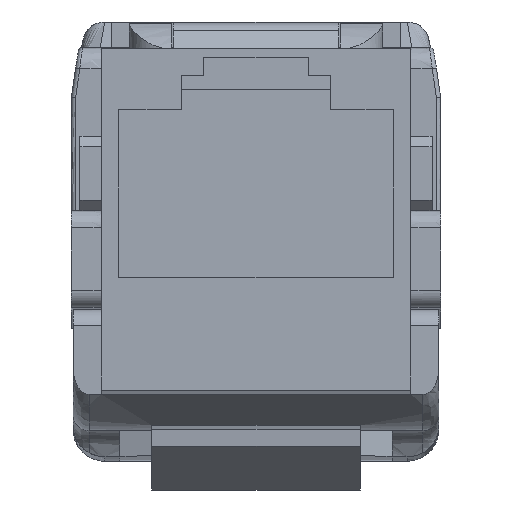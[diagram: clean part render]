
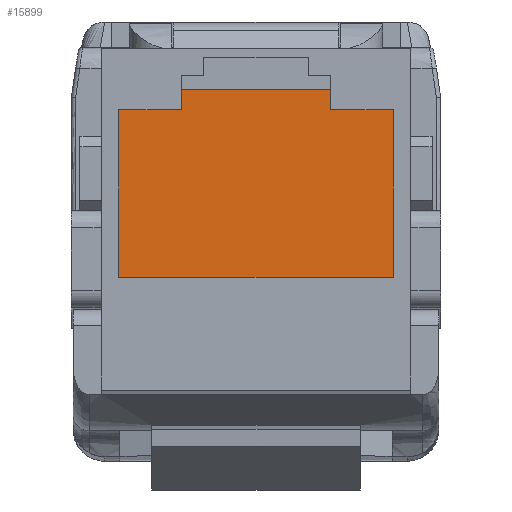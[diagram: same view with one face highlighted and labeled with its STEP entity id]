
A CAD part, left-side view. The second image highlights one B-rep face of the part: STEP entity #15899.
In plain terms, the highlighted free-form (B-spline) face has degree [1, 1] with [2, 2] control points.
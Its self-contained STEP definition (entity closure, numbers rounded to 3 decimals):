
#11173=CARTESIAN_POINT('',(10.,3.504,14.336));
#11174=VERTEX_POINT('',#11173);
#11186=CARTESIAN_POINT('',(10.,-3.504,14.336));
#11187=VERTEX_POINT('',#11186);
#11188=CARTESIAN_POINT('',(10.,-3.504,14.336));
#11189=CARTESIAN_POINT('',(10.,-2.103,14.336));
#11190=CARTESIAN_POINT('',(10.,-0.701,14.336));
#11191=CARTESIAN_POINT('',(10.,0.701,14.336));
#11192=CARTESIAN_POINT('',(10.,2.103,14.336));
#11193=CARTESIAN_POINT('',(10.,3.504,14.336));
#11194=B_SPLINE_CURVE_WITH_KNOTS('',5,(#11188,#11189,#11190,#11191,#11192,#11193),.UNSPECIFIED.,.F.,.U.,(6,6),(0.,7.009),.UNSPECIFIED.);
#11195=EDGE_CURVE('',#11187,#11174,#11194,.T.);
#11863=CARTESIAN_POINT('',(10.,-3.504,13.382));
#11864=VERTEX_POINT('',#11863);
#11874=CARTESIAN_POINT('',(10.,-3.504,14.336));
#11875=CARTESIAN_POINT('',(10.,-3.504,14.146));
#11876=CARTESIAN_POINT('',(10.,-3.504,13.955));
#11877=CARTESIAN_POINT('',(10.,-3.504,13.764));
#11878=CARTESIAN_POINT('',(10.,-3.504,13.573));
#11879=CARTESIAN_POINT('',(10.,-3.504,13.382));
#11880=B_SPLINE_CURVE_WITH_KNOTS('',5,(#11874,#11875,#11876,#11877,#11878,#11879),.UNSPECIFIED.,.F.,.U.,(6,6),(0.,0.955),.UNSPECIFIED.);
#11881=EDGE_CURVE('',#11187,#11864,#11880,.T.);
#15826=CARTESIAN_POINT('',(10.,-6.458,14.336));
#15827=CARTESIAN_POINT('',(10.,6.458,14.336));
#15828=CARTESIAN_POINT('',(10.,-6.458,5.491));
#15829=CARTESIAN_POINT('',(10.,6.458,5.491));
#15830=B_SPLINE_SURFACE_WITH_KNOTS('',1,1,((#15826,#15827),(#15828,#15829)),.PLANE_SURF.,.F.,.F.,.U.,(2,2),(2,2),(0.,8.845),(0.,12.915),.UNSPECIFIED.);
#15831=ORIENTED_EDGE('',*,*,#11881,.T.);
#15832=CARTESIAN_POINT('',(10.,-6.458,13.382));
#15833=VERTEX_POINT('',#15832);
#15834=CARTESIAN_POINT('',(10.,-3.504,13.382));
#15835=CARTESIAN_POINT('',(10.,-4.095,13.382));
#15836=CARTESIAN_POINT('',(10.,-4.686,13.382));
#15837=CARTESIAN_POINT('',(10.,-5.276,13.382));
#15838=CARTESIAN_POINT('',(10.,-5.867,13.382));
#15839=CARTESIAN_POINT('',(10.,-6.458,13.382));
#15840=B_SPLINE_CURVE_WITH_KNOTS('',5,(#15834,#15835,#15836,#15837,#15838,#15839),.UNSPECIFIED.,.F.,.U.,(6,6),(0.,2.953),.UNSPECIFIED.);
#15841=EDGE_CURVE('',#11864,#15833,#15840,.T.);
#15842=ORIENTED_EDGE('',*,*,#15841,.T.);
#15843=CARTESIAN_POINT('',(10.,-6.458,5.491));
#15844=VERTEX_POINT('',#15843);
#15845=CARTESIAN_POINT('',(10.,-6.458,13.382));
#15846=CARTESIAN_POINT('',(10.,-6.458,11.804));
#15847=CARTESIAN_POINT('',(10.,-6.458,10.226));
#15848=CARTESIAN_POINT('',(10.,-6.458,8.647));
#15849=CARTESIAN_POINT('',(10.,-6.458,7.069));
#15850=CARTESIAN_POINT('',(10.,-6.458,5.491));
#15851=B_SPLINE_CURVE_WITH_KNOTS('',5,(#15845,#15846,#15847,#15848,#15849,#15850),.UNSPECIFIED.,.F.,.U.,(6,6),(0.,7.89),.UNSPECIFIED.);
#15852=EDGE_CURVE('',#15833,#15844,#15851,.T.);
#15853=ORIENTED_EDGE('',*,*,#15852,.T.);
#15854=CARTESIAN_POINT('',(10.,6.458,5.491));
#15855=VERTEX_POINT('',#15854);
#15856=CARTESIAN_POINT('',(10.,-6.458,5.491));
#15857=CARTESIAN_POINT('',(10.,-3.875,5.491));
#15858=CARTESIAN_POINT('',(10.,-1.292,5.491));
#15859=CARTESIAN_POINT('',(10.,1.292,5.491));
#15860=CARTESIAN_POINT('',(10.,3.875,5.491));
#15861=CARTESIAN_POINT('',(10.,6.458,5.491));
#15862=B_SPLINE_CURVE_WITH_KNOTS('',5,(#15856,#15857,#15858,#15859,#15860,#15861),.UNSPECIFIED.,.F.,.U.,(6,6),(0.,12.915),.UNSPECIFIED.);
#15863=EDGE_CURVE('',#15844,#15855,#15862,.T.);
#15864=ORIENTED_EDGE('',*,*,#15863,.T.);
#15865=CARTESIAN_POINT('',(10.,6.458,13.382));
#15866=VERTEX_POINT('',#15865);
#15867=CARTESIAN_POINT('',(10.,6.458,5.491));
#15868=CARTESIAN_POINT('',(10.,6.458,7.069));
#15869=CARTESIAN_POINT('',(10.,6.458,8.647));
#15870=CARTESIAN_POINT('',(10.,6.458,10.226));
#15871=CARTESIAN_POINT('',(10.,6.458,11.804));
#15872=CARTESIAN_POINT('',(10.,6.458,13.382));
#15873=B_SPLINE_CURVE_WITH_KNOTS('',5,(#15867,#15868,#15869,#15870,#15871,#15872),.UNSPECIFIED.,.F.,.U.,(6,6),(0.,7.89),.UNSPECIFIED.);
#15874=EDGE_CURVE('',#15855,#15866,#15873,.T.);
#15875=ORIENTED_EDGE('',*,*,#15874,.T.);
#15876=CARTESIAN_POINT('',(10.,3.504,13.382));
#15877=VERTEX_POINT('',#15876);
#15878=CARTESIAN_POINT('',(10.,6.458,13.382));
#15879=CARTESIAN_POINT('',(10.,5.867,13.382));
#15880=CARTESIAN_POINT('',(10.,5.276,13.382));
#15881=CARTESIAN_POINT('',(10.,4.686,13.382));
#15882=CARTESIAN_POINT('',(10.,4.095,13.382));
#15883=CARTESIAN_POINT('',(10.,3.504,13.382));
#15884=B_SPLINE_CURVE_WITH_KNOTS('',5,(#15878,#15879,#15880,#15881,#15882,#15883),.UNSPECIFIED.,.F.,.U.,(6,6),(0.,2.953),.UNSPECIFIED.);
#15885=EDGE_CURVE('',#15866,#15877,#15884,.T.);
#15886=ORIENTED_EDGE('',*,*,#15885,.T.);
#15887=CARTESIAN_POINT('',(10.,3.504,13.382));
#15888=CARTESIAN_POINT('',(10.,3.504,13.573));
#15889=CARTESIAN_POINT('',(10.,3.504,13.764));
#15890=CARTESIAN_POINT('',(10.,3.504,13.955));
#15891=CARTESIAN_POINT('',(10.,3.504,14.146));
#15892=CARTESIAN_POINT('',(10.,3.504,14.336));
#15893=B_SPLINE_CURVE_WITH_KNOTS('',5,(#15887,#15888,#15889,#15890,#15891,#15892),.UNSPECIFIED.,.F.,.U.,(6,6),(0.,0.955),.UNSPECIFIED.);
#15894=EDGE_CURVE('',#15877,#11174,#15893,.T.);
#15895=ORIENTED_EDGE('',*,*,#15894,.T.);
#15896=ORIENTED_EDGE('',*,*,#11195,.F.);
#15897=EDGE_LOOP('',(#15831,#15842,#15853,#15864,#15875,#15886,#15895,#15896));
#15898=FACE_OUTER_BOUND('',#15897,.F.);
#15899=ADVANCED_FACE('',(#15898),#15830,.F.);
